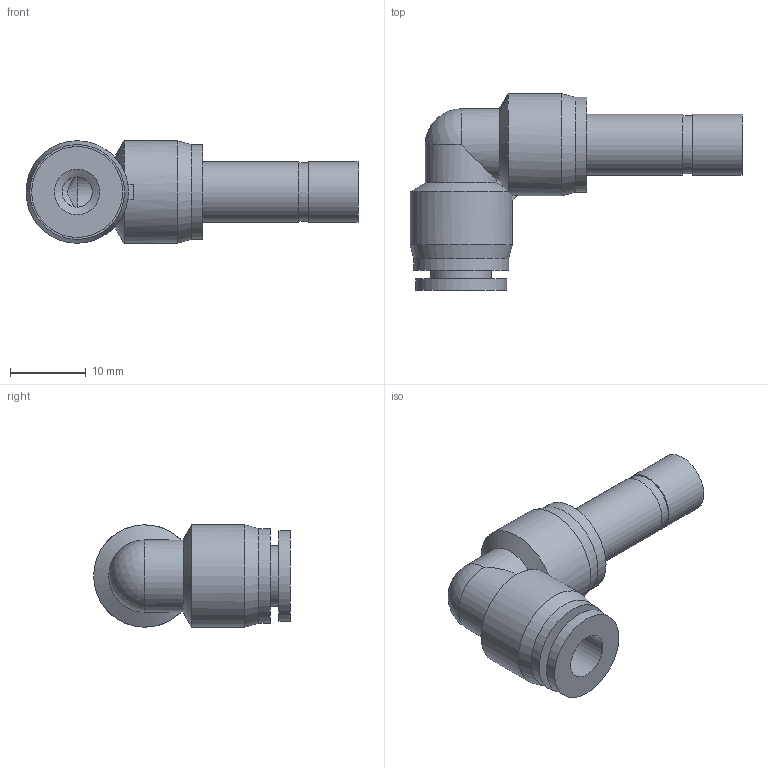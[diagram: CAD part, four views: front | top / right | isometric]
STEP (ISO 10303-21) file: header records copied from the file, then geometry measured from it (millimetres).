
FILE_DESCRIPTION((''),'2;1');
FILE_NAME('S:\UTecnico\ArchivioUT\Speciali Clienti\Speciali KONFIT\DISEGNI 3D\RP\RP 85\RP850806.stp','2012-05-24T08:42:51',('UT5'),(''),'Autodesk Inventor 2012','Autodesk Inventor 2012','');
FILE_SCHEMA(('AUTOMOTIVE_DESIGN { 1 0 10303 214 1 1 1 1 }'));
Length unit declared in the file: millimetre
Products named in the file (1): RP850806
Bounding box: 43.8 x 25.95 x 13.5 mm (x, y, z)
Volume: 3878.6 mm3; surface area: 3133.1 mm2
Topology: 1 solids, 1 shells, 34 faces, 75 edges, 48 vertices
Faces by surface type: cylinder 14, plane 12, cone 7, sphere 1
Full cylindrical faces by diameter (mm): 4 x1, 5.3 x1, 6 x1, 7.7 x1, 8 x3, 12 x1, 12.5 x2, 13.5 x2
Entity records: 918 total; most frequent: CARTESIAN_POINT 201, DIRECTION 148, ORIENTED_EDGE 108, AXIS2_PLACEMENT_3D 69, EDGE_LOOP 56, EDGE_CURVE 54, VERTEX_POINT 42, FACE_OUTER_BOUND 34
